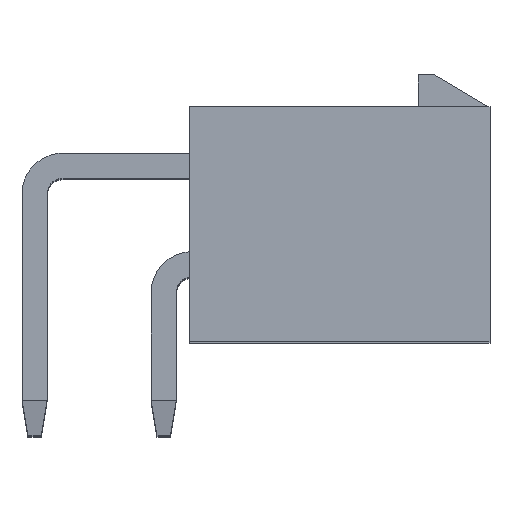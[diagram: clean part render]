
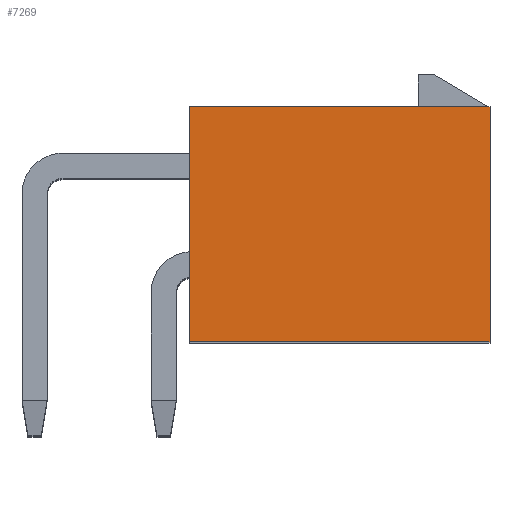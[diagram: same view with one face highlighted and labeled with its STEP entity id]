
A CAD part, top view. The second image highlights one B-rep face of the part: STEP entity #7269.
In plain terms, the highlighted planar face has unit normal (0, 0, 1).
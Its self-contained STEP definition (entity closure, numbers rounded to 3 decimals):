
#1=DIRECTION('',(0.,-1.,0.));
#2=VECTOR('',#1,10.);
#3=CARTESIAN_POINT('',(-6.4,5.,21.6));
#4=LINE('',#3,#2);
#353=DIRECTION('',(1.,0.,0.));
#354=VECTOR('',#353,12.8);
#355=CARTESIAN_POINT('',(-6.4,5.,21.6));
#356=LINE('',#355,#354);
#418=DIRECTION('',(0.,-1.,0.));
#419=VECTOR('',#418,10.);
#420=CARTESIAN_POINT('',(6.4,5.,21.6));
#421=LINE('',#420,#419);
#871=DIRECTION('',(1.,0.,0.));
#872=VECTOR('',#871,12.8);
#873=CARTESIAN_POINT('',(-6.4,-5.,21.6));
#874=LINE('',#873,#872);
#5375=CARTESIAN_POINT('',(-6.4,5.,21.6));
#5376=CARTESIAN_POINT('',(-6.4,-5.,21.6));
#5377=VERTEX_POINT('',#5375);
#5378=VERTEX_POINT('',#5376);
#5385=CARTESIAN_POINT('',(6.4,5.,21.6));
#5386=CARTESIAN_POINT('',(6.4,-5.,21.6));
#5387=VERTEX_POINT('',#5385);
#5388=VERTEX_POINT('',#5386);
#7255=CARTESIAN_POINT('',(-6.4,5.,21.6));
#7256=DIRECTION('',(0.,0.,1.));
#7257=DIRECTION('',(0.,-1.,0.));
#7258=AXIS2_PLACEMENT_3D('',#7255,#7256,#7257);
#7259=PLANE('',#7258);
#7260=ORIENTED_EDGE('',*,*,#7036,.F.);
#7262=ORIENTED_EDGE('',*,*,#7261,.T.);
#7264=ORIENTED_EDGE('',*,*,#7263,.T.);
#7266=ORIENTED_EDGE('',*,*,#7265,.F.);
#7267=EDGE_LOOP('',(#7260,#7262,#7264,#7266));
#7268=FACE_OUTER_BOUND('',#7267,.F.);
#7269=ADVANCED_FACE('',(#7268),#7259,.T.);
#7036=EDGE_CURVE('',#5377,#5378,#4,.T.);
#7261=EDGE_CURVE('',#5377,#5387,#356,.T.);
#7263=EDGE_CURVE('',#5387,#5388,#421,.T.);
#7265=EDGE_CURVE('',#5378,#5388,#874,.T.);
